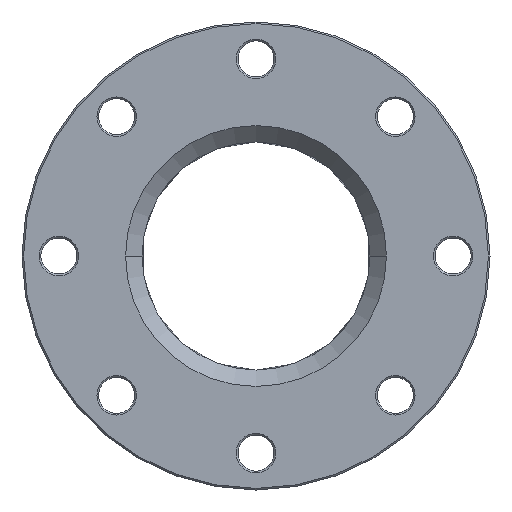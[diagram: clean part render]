
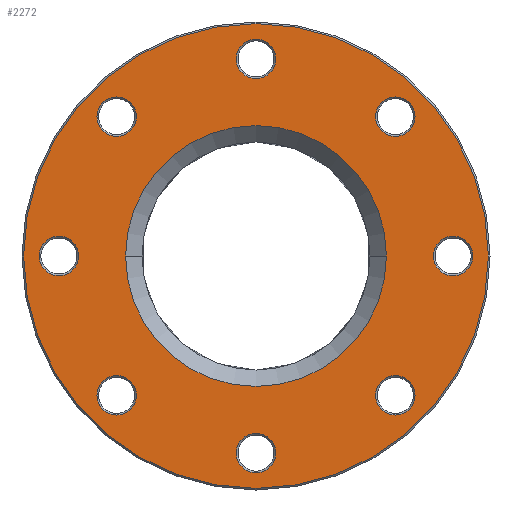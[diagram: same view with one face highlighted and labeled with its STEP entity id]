
A CAD part, front view. The second image highlights one B-rep face of the part: STEP entity #2272.
In plain terms, the highlighted planar face has unit normal (0, -1, 0).
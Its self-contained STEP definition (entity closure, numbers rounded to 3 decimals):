
#646=CARTESIAN_POINT('',(0.,-0.072,0.));
#647=DIRECTION('',(0.,1.,0.));
#648=DIRECTION('',(-1.,0.,0.));
#649=AXIS2_PLACEMENT_3D('',#646,#647,#648);
#654=CARTESIAN_POINT('',(0.,-0.072,0.));
#655=DIRECTION('',(0.,1.,0.));
#656=DIRECTION('',(1.,0.,0.));
#657=AXIS2_PLACEMENT_3D('',#654,#655,#656);
#662=CARTESIAN_POINT('',(-120.,-0.072,0.));
#663=DIRECTION('',(0.,1.,0.));
#664=DIRECTION('',(-0.707,0.,-0.707));
#665=AXIS2_PLACEMENT_3D('',#662,#663,#664);
#670=CARTESIAN_POINT('',(-120.,-0.072,0.));
#671=DIRECTION('',(0.,1.,0.));
#672=DIRECTION('',(0.707,0.,0.707));
#673=AXIS2_PLACEMENT_3D('',#670,#671,#672);
#678=CARTESIAN_POINT('',(-84.853,-0.072,84.853));
#679=DIRECTION('',(0.,1.,0.));
#680=DIRECTION('',(-1.,0.,0.));
#681=AXIS2_PLACEMENT_3D('',#678,#679,#680);
#686=CARTESIAN_POINT('',(-84.853,-0.072,84.853));
#687=DIRECTION('',(0.,1.,0.));
#688=DIRECTION('',(1.,0.,0.));
#689=AXIS2_PLACEMENT_3D('',#686,#687,#688);
#694=CARTESIAN_POINT('',(0.,-0.072,120.));
#695=DIRECTION('',(0.,1.,0.));
#696=DIRECTION('',(-0.707,0.,0.707));
#697=AXIS2_PLACEMENT_3D('',#694,#695,#696);
#702=CARTESIAN_POINT('',(0.,-0.072,120.));
#703=DIRECTION('',(0.,1.,0.));
#704=DIRECTION('',(0.707,0.,-0.707));
#705=AXIS2_PLACEMENT_3D('',#702,#703,#704);
#710=CARTESIAN_POINT('',(84.853,-0.072,84.853));
#711=DIRECTION('',(0.,1.,0.));
#712=DIRECTION('',(0.,0.,1.));
#713=AXIS2_PLACEMENT_3D('',#710,#711,#712);
#718=CARTESIAN_POINT('',(84.853,-0.072,84.853));
#719=DIRECTION('',(0.,1.,0.));
#720=DIRECTION('',(0.,0.,-1.));
#721=AXIS2_PLACEMENT_3D('',#718,#719,#720);
#726=CARTESIAN_POINT('',(120.,-0.072,0.));
#727=DIRECTION('',(0.,1.,0.));
#728=DIRECTION('',(-0.707,0.,-0.707));
#729=AXIS2_PLACEMENT_3D('',#726,#727,#728);
#734=CARTESIAN_POINT('',(120.,-0.072,0.));
#735=DIRECTION('',(0.,1.,0.));
#736=DIRECTION('',(0.707,0.,0.707));
#737=AXIS2_PLACEMENT_3D('',#734,#735,#736);
#742=CARTESIAN_POINT('',(84.853,-0.072,-84.853));
#743=DIRECTION('',(0.,1.,0.));
#744=DIRECTION('',(-1.,0.,0.));
#745=AXIS2_PLACEMENT_3D('',#742,#743,#744);
#750=CARTESIAN_POINT('',(84.853,-0.072,-84.853));
#751=DIRECTION('',(0.,1.,0.));
#752=DIRECTION('',(1.,0.,0.));
#753=AXIS2_PLACEMENT_3D('',#750,#751,#752);
#758=CARTESIAN_POINT('',(-84.853,-0.072,-84.853));
#759=DIRECTION('',(0.,1.,0.));
#760=DIRECTION('',(0.,0.,-1.));
#761=AXIS2_PLACEMENT_3D('',#758,#759,#760);
#766=CARTESIAN_POINT('',(-84.853,-0.072,-84.853));
#767=DIRECTION('',(0.,1.,0.));
#768=DIRECTION('',(0.,0.,1.));
#769=AXIS2_PLACEMENT_3D('',#766,#767,#768);
#774=CARTESIAN_POINT('',(0.,-0.072,-120.));
#775=DIRECTION('',(0.,1.,0.));
#776=DIRECTION('',(-0.707,0.,0.707));
#777=AXIS2_PLACEMENT_3D('',#774,#775,#776);
#782=CARTESIAN_POINT('',(0.,-0.072,-120.));
#783=DIRECTION('',(0.,1.,0.));
#784=DIRECTION('',(0.707,0.,-0.707));
#785=AXIS2_PLACEMENT_3D('',#782,#783,#784);
#790=CARTESIAN_POINT('',(0.,-0.072,0.));
#791=DIRECTION('',(0.,-1.,0.));
#792=DIRECTION('',(1.,0.,0.));
#793=AXIS2_PLACEMENT_3D('',#790,#791,#792);
#798=CARTESIAN_POINT('',(0.,-0.072,0.));
#799=DIRECTION('',(0.,-1.,0.));
#800=DIRECTION('',(-1.,0.,0.));
#801=AXIS2_PLACEMENT_3D('',#798,#799,#800);
#1593=CARTESIAN_POINT('',(-79.424,-0.072,0.));
#1594=CARTESIAN_POINT('',(79.424,-0.072,0.));
#1595=VERTEX_POINT('',#1593);
#1596=VERTEX_POINT('',#1594);
#1601=CARTESIAN_POINT('',(-128.485,-0.072,-8.485));
#1602=CARTESIAN_POINT('',(-111.515,-0.072,8.485));
#1603=VERTEX_POINT('',#1601);
#1604=VERTEX_POINT('',#1602);
#1609=CARTESIAN_POINT('',(-96.853,-0.072,84.853));
#1610=CARTESIAN_POINT('',(-72.853,-0.072,84.853));
#1611=VERTEX_POINT('',#1609);
#1612=VERTEX_POINT('',#1610);
#1617=CARTESIAN_POINT('',(-8.485,-0.072,128.485));
#1618=CARTESIAN_POINT('',(8.485,-0.072,111.515));
#1619=VERTEX_POINT('',#1617);
#1620=VERTEX_POINT('',#1618);
#1625=CARTESIAN_POINT('',(84.853,-0.072,96.853));
#1626=CARTESIAN_POINT('',(84.853,-0.072,72.853));
#1627=VERTEX_POINT('',#1625);
#1628=VERTEX_POINT('',#1626);
#1633=CARTESIAN_POINT('',(111.515,-0.072,-8.485));
#1634=CARTESIAN_POINT('',(128.485,-0.072,8.485));
#1635=VERTEX_POINT('',#1633);
#1636=VERTEX_POINT('',#1634);
#1641=CARTESIAN_POINT('',(72.853,-0.072,-84.853));
#1642=CARTESIAN_POINT('',(96.853,-0.072,-84.853));
#1643=VERTEX_POINT('',#1641);
#1644=VERTEX_POINT('',#1642);
#1649=CARTESIAN_POINT('',(-84.853,-0.072,-96.853));
#1650=CARTESIAN_POINT('',(-84.853,-0.072,-72.853));
#1651=VERTEX_POINT('',#1649);
#1652=VERTEX_POINT('',#1650);
#1657=CARTESIAN_POINT('',(-8.485,-0.072,-111.515));
#1658=CARTESIAN_POINT('',(8.485,-0.072,-128.485));
#1659=VERTEX_POINT('',#1657);
#1660=VERTEX_POINT('',#1658);
#1729=CARTESIAN_POINT('',(141.5,-0.072,0.));
#1730=CARTESIAN_POINT('',(-141.5,-0.072,0.));
#1731=VERTEX_POINT('',#1729);
#1732=VERTEX_POINT('',#1730);
#2208=CARTESIAN_POINT('',(0.,-0.072,0.));
#2209=DIRECTION('',(0.,-1.,0.));
#2210=DIRECTION('',(1.,0.,0.));
#2211=AXIS2_PLACEMENT_3D('',#2208,#2209,#2210);
#2212=PLANE('',#2211);
#2214=ORIENTED_EDGE('',*,*,#2213,.F.);
#2216=ORIENTED_EDGE('',*,*,#2215,.F.);
#2217=EDGE_LOOP('',(#2214,#2216));
#2218=FACE_OUTER_BOUND('',#2217,.F.);
#2220=ORIENTED_EDGE('',*,*,#2219,.F.);
#2222=ORIENTED_EDGE('',*,*,#2221,.F.);
#2223=EDGE_LOOP('',(#2220,#2222));
#2224=FACE_BOUND('',#2223,.F.);
#2226=ORIENTED_EDGE('',*,*,#2225,.F.);
#2228=ORIENTED_EDGE('',*,*,#2227,.F.);
#2229=EDGE_LOOP('',(#2226,#2228));
#2230=FACE_BOUND('',#2229,.F.);
#2232=ORIENTED_EDGE('',*,*,#2231,.F.);
#2234=ORIENTED_EDGE('',*,*,#2233,.F.);
#2235=EDGE_LOOP('',(#2232,#2234));
#2236=FACE_BOUND('',#2235,.F.);
#2238=ORIENTED_EDGE('',*,*,#2237,.F.);
#2240=ORIENTED_EDGE('',*,*,#2239,.F.);
#2241=EDGE_LOOP('',(#2238,#2240));
#2242=FACE_BOUND('',#2241,.F.);
#2244=ORIENTED_EDGE('',*,*,#2243,.F.);
#2246=ORIENTED_EDGE('',*,*,#2245,.F.);
#2247=EDGE_LOOP('',(#2244,#2246));
#2248=FACE_BOUND('',#2247,.F.);
#2250=ORIENTED_EDGE('',*,*,#2249,.F.);
#2252=ORIENTED_EDGE('',*,*,#2251,.F.);
#2253=EDGE_LOOP('',(#2250,#2252));
#2254=FACE_BOUND('',#2253,.F.);
#2256=ORIENTED_EDGE('',*,*,#2255,.F.);
#2258=ORIENTED_EDGE('',*,*,#2257,.F.);
#2259=EDGE_LOOP('',(#2256,#2258));
#2260=FACE_BOUND('',#2259,.F.);
#2262=ORIENTED_EDGE('',*,*,#2261,.F.);
#2264=ORIENTED_EDGE('',*,*,#2263,.F.);
#2265=EDGE_LOOP('',(#2262,#2264));
#2266=FACE_BOUND('',#2265,.F.);
#2267=ORIENTED_EDGE('',*,*,#2198,.F.);
#2269=ORIENTED_EDGE('',*,*,#2268,.F.);
#2270=EDGE_LOOP('',(#2267,#2269));
#2271=FACE_BOUND('',#2270,.F.);
#650=CIRCLE('',#649,79.424);
#658=CIRCLE('',#657,79.424);
#666=CIRCLE('',#665,12.);
#674=CIRCLE('',#673,12.);
#682=CIRCLE('',#681,12.);
#690=CIRCLE('',#689,12.);
#698=CIRCLE('',#697,12.);
#706=CIRCLE('',#705,12.);
#714=CIRCLE('',#713,12.);
#722=CIRCLE('',#721,12.);
#730=CIRCLE('',#729,12.);
#738=CIRCLE('',#737,12.);
#746=CIRCLE('',#745,12.);
#754=CIRCLE('',#753,12.);
#762=CIRCLE('',#761,12.);
#770=CIRCLE('',#769,12.);
#778=CIRCLE('',#777,12.);
#786=CIRCLE('',#785,12.);
#794=CIRCLE('',#793,141.5);
#802=CIRCLE('',#801,141.5);
#2198=EDGE_CURVE('',#1595,#1596,#650,.T.);
#2213=EDGE_CURVE('',#1731,#1732,#794,.T.);
#2215=EDGE_CURVE('',#1732,#1731,#802,.T.);
#2219=EDGE_CURVE('',#1603,#1604,#666,.T.);
#2221=EDGE_CURVE('',#1604,#1603,#674,.T.);
#2225=EDGE_CURVE('',#1611,#1612,#682,.T.);
#2227=EDGE_CURVE('',#1612,#1611,#690,.T.);
#2231=EDGE_CURVE('',#1619,#1620,#698,.T.);
#2233=EDGE_CURVE('',#1620,#1619,#706,.T.);
#2237=EDGE_CURVE('',#1627,#1628,#714,.T.);
#2239=EDGE_CURVE('',#1628,#1627,#722,.T.);
#2243=EDGE_CURVE('',#1635,#1636,#730,.T.);
#2245=EDGE_CURVE('',#1636,#1635,#738,.T.);
#2249=EDGE_CURVE('',#1643,#1644,#746,.T.);
#2251=EDGE_CURVE('',#1644,#1643,#754,.T.);
#2255=EDGE_CURVE('',#1651,#1652,#762,.T.);
#2257=EDGE_CURVE('',#1652,#1651,#770,.T.);
#2261=EDGE_CURVE('',#1659,#1660,#778,.T.);
#2263=EDGE_CURVE('',#1660,#1659,#786,.T.);
#2268=EDGE_CURVE('',#1596,#1595,#658,.T.);
#2272=ADVANCED_FACE('',(#2218,#2224,#2230,#2236,#2242,#2248,#2254,#2260,#2266,
#2271),#2212,.T.);
